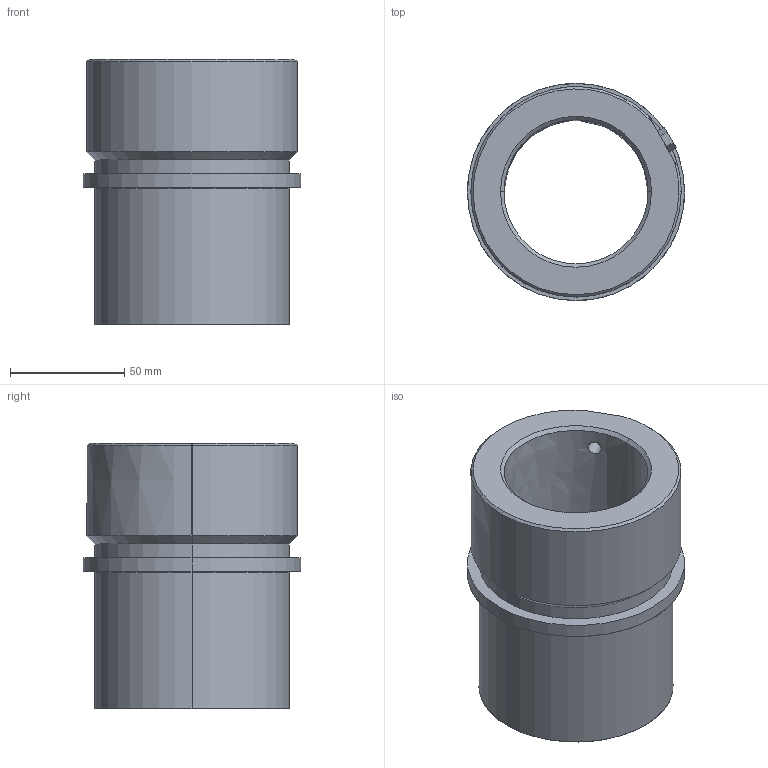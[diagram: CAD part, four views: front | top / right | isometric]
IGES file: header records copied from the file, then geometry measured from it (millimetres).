
Start section: START RECORD GO HERE.
Global section: file name: 741-63.igs; native system: DASSAULT SYSTEMES CATIA V5 R20 - www.3ds.com; preprocessor: CATIA Version 5 Release 20 ; author: Utente; organization: NB04-ASUS; date: 20210120.185339; units: millimetre
Bounding box: 95 x 95 x 116 mm (x, y, z)
Surface area: 64582.2 mm2 (no closed solid volume)
Topology: 0 solids, 0 shells, 42 faces, 186 edges, 186 vertices
Faces by surface type: revolution 27, plane 15
